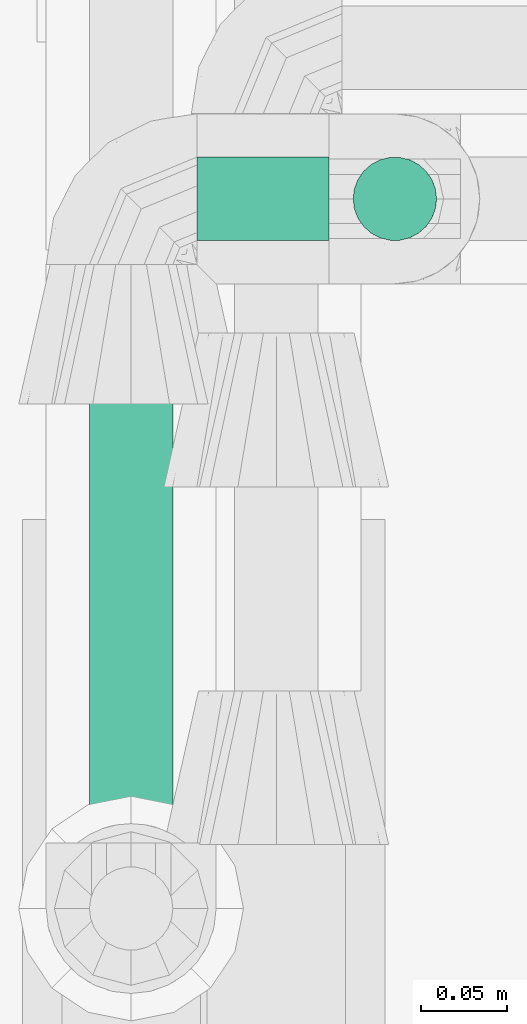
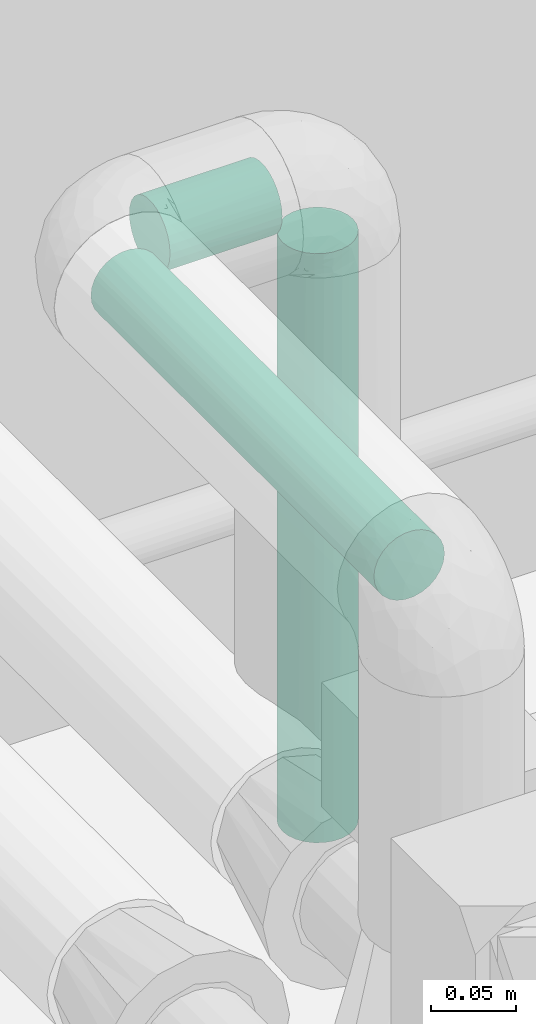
# One storey, part 85 of 94: 3 flow segments.
"""IFC2X3 building model written with IfcOpenShell, lengths in millimetres."""

from ifc_helpers import new_model, entity, si_unit, converted_unit, derived_unit, direction, frame, frame_2d, origin, origin_2d_with_axis, place, context, subcontext, project, spatial, circle, extrude, type_object, element, save


model = new_model("IFC2X3")

# Units and contexts
model_context = context("Model", 3, precision=0.01, world=origin(), true_north=direction((6.123031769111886e-17, 1.0)))
body_context = subcontext(model_context, "Body", "Model", "MODEL_VIEW")
ifc_project = project(units=[si_unit("LENGTHUNIT", "METRE", prefix="MILLI"), si_unit("AREAUNIT", "SQUARE_METRE"), si_unit("VOLUMEUNIT", "CUBIC_METRE"), converted_unit("PLANEANGLEUNIT", "DEGREE", entity("IfcRatioMeasure", 0.017453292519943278), si_unit("PLANEANGLEUNIT", "RADIAN"), dimensions=[0, 0, 0, 0, 0, 0, 0]), si_unit("MASSUNIT", "GRAM", prefix="KILO"), derived_unit("MASSDENSITYUNIT", [(si_unit("MASSUNIT", "GRAM", prefix="KILO"), 1), (si_unit("LENGTHUNIT", "METRE"), -3)]), derived_unit("IONCONCENTRATIONUNIT", [(si_unit("MASSUNIT", "GRAM", prefix="KILO"), 1), (si_unit("LENGTHUNIT", "METRE"), -3)]), derived_unit("MOMENTOFINERTIAUNIT", [(si_unit("LENGTHUNIT", "METRE"), 4)]), si_unit("TIMEUNIT", "SECOND"), si_unit("FREQUENCYUNIT", "HERTZ"), si_unit("THERMODYNAMICTEMPERATUREUNIT", "DEGREE_CELSIUS"), derived_unit("THERMALTRANSMITTANCEUNIT", [(si_unit("MASSUNIT", "GRAM", prefix="KILO"), 1), (si_unit("THERMODYNAMICTEMPERATUREUNIT", "KELVIN"), -1), (si_unit("TIMEUNIT", "SECOND"), -3)]), derived_unit("THERMALCONDUCTANCEUNIT", [(si_unit("MASSUNIT", "GRAM", prefix="KILO"), 1), (si_unit("THERMODYNAMICTEMPERATUREUNIT", "KELVIN"), -1), (si_unit("TIMEUNIT", "SECOND"), -3), (si_unit("LENGTHUNIT", "METRE"), 1)]), derived_unit("VOLUMETRICFLOWRATEUNIT", [(si_unit("LENGTHUNIT", "METRE"), 3), (si_unit("TIMEUNIT", "SECOND"), -1)]), derived_unit("MASSFLOWRATEUNIT", [(si_unit("MASSUNIT", "GRAM", prefix="KILO"), 1), (si_unit("TIMEUNIT", "SECOND"), -1)]), derived_unit("ROTATIONALFREQUENCYUNIT", [(si_unit("TIMEUNIT", "SECOND"), -1)]), si_unit("ELECTRICCURRENTUNIT", "AMPERE"), si_unit("ELECTRICVOLTAGEUNIT", "VOLT"), si_unit("POWERUNIT", "WATT"), si_unit("FORCEUNIT", "NEWTON", prefix="KILO"), si_unit("ILLUMINANCEUNIT", "LUX"), si_unit("LUMINOUSFLUXUNIT", "LUMEN"), si_unit("LUMINOUSINTENSITYUNIT", "CANDELA"), derived_unit("USERDEFINED", [(si_unit("MASSUNIT", "GRAM", prefix="KILO"), -1), (si_unit("LENGTHUNIT", "METRE"), -2), (si_unit("TIMEUNIT", "SECOND"), 3), (si_unit("LUMINOUSFLUXUNIT", "LUMEN"), 1)]), derived_unit("USERDEFINED", [(si_unit("MASSUNIT", "GRAM", prefix="KILO"), 1), (si_unit("TIMEUNIT", "SECOND"), -3), (si_unit("LENGTHUNIT", "METRE"), 3), (si_unit("ELECTRICCURRENTUNIT", "AMPERE"), -2)]), derived_unit("SOUNDPOWERUNIT", [(si_unit("MASSUNIT", "GRAM", prefix="KILO"), 1), (si_unit("TIMEUNIT", "SECOND"), -3), (si_unit("LENGTHUNIT", "METRE"), 2)]), derived_unit("SOUNDPRESSUREUNIT", [(si_unit("MASSUNIT", "GRAM", prefix="KILO"), 1), (si_unit("LENGTHUNIT", "METRE"), -1), (si_unit("TIMEUNIT", "SECOND"), -2)]), derived_unit("LINEARVELOCITYUNIT", [(si_unit("LENGTHUNIT", "METRE"), 1), (si_unit("TIMEUNIT", "SECOND"), -1)]), si_unit("PRESSUREUNIT", "PASCAL"), derived_unit("USERDEFINED", [(si_unit("MASSUNIT", "GRAM", prefix="KILO"), 1), (si_unit("LENGTHUNIT", "METRE"), -2), (si_unit("TIMEUNIT", "SECOND"), -2)]), derived_unit("LINEARFORCEUNIT", [(si_unit("MASSUNIT", "GRAM", prefix="KILO"), 1), (si_unit("TIMEUNIT", "SECOND"), -2)]), derived_unit("PLANARFORCEUNIT", [(si_unit("MASSUNIT", "GRAM", prefix="KILO"), 1), (si_unit("LENGTHUNIT", "METRE"), -1), (si_unit("TIMEUNIT", "SECOND"), -2)]), derived_unit("SPECIFICHEATCAPACITYUNIT", [(si_unit("THERMODYNAMICTEMPERATUREUNIT", "KELVIN"), -1), (si_unit("LENGTHUNIT", "METRE"), 2), (si_unit("TIMEUNIT", "SECOND"), -2)]), derived_unit("HEATINGVALUEUNIT", [(si_unit("LENGTHUNIT", "METRE"), 2), (si_unit("TIMEUNIT", "SECOND"), -2)]), derived_unit("VAPORPERMEABILITYUNIT", [(si_unit("LENGTHUNIT", "METRE"), -1), (si_unit("TIMEUNIT", "SECOND"), 1)]), derived_unit("DYNAMICVISCOSITYUNIT", [(si_unit("MASSUNIT", "GRAM", prefix="KILO"), 1), (si_unit("TIMEUNIT", "SECOND"), -1), (si_unit("LENGTHUNIT", "METRE"), -1)]), derived_unit("THERMALEXPANSIONCOEFFICIENTUNIT", [(si_unit("THERMODYNAMICTEMPERATUREUNIT", "KELVIN"), -1)]), derived_unit("MODULUSOFELASTICITYUNIT", [(si_unit("MASSUNIT", "GRAM", prefix="KILO"), 1), (si_unit("LENGTHUNIT", "METRE"), -1), (si_unit("TIMEUNIT", "SECOND"), -2)]), derived_unit("ISOTHERMALMOISTURECAPACITYUNIT", [(si_unit("LENGTHUNIT", "METRE"), 3), (si_unit("MASSUNIT", "GRAM", prefix="KILO"), -1)]), derived_unit("MOISTUREDIFFUSIVITYUNIT", [(si_unit("TIMEUNIT", "SECOND"), -1), (si_unit("LENGTHUNIT", "METRE"), 2)])], contexts=[model_context])

# Site, building, storey
site_placement = place(None, origin())
site = spatial("IfcSite", under=ifc_project, at=site_placement, Name="Default", CompositionType="ELEMENT")
building_placement = place(site_placement, origin())
building = spatial("IfcBuilding", under=site, at=building_placement, CompositionType="ELEMENT")
storey_placement = place(building_placement, origin())
storey = spatial("IfcBuildingStorey", under=building, at=storey_placement, Name="Niveau 0", CompositionType="ELEMENT", Elevation=0.0)

# Flow segments
pipe_segment_type_1 = type_object("IfcPipeSegmentType", Name="Canalisation:Bride acier", PredefinedType="NOTDEFINED")
flow_segment_1_placement = place(storey_placement, origin())
element("IfcFlowSegment", 1, at=flow_segment_1_placement, inside=storey, type_object=pipe_segment_type_1, Name="Canalisation:Bride acier", ObjectType="Canalisation:Bride acier", context=body_context, shape_type="SweptSolid", body=[
    extrude(circle(Radius=24.13, at=origin_2d_with_axis()), frame((-6972.740682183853, 9275.47767928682, 999.9987225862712), z_axis=(0.9999999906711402, 0.0, 0.00013659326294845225), x_axis=(0.0, 1.0, 0.0)), (0.0, 0.0, 1.0), 76.58976976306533),
])
flow_segment_2_placement = place(storey_placement, origin())
element("IfcFlowSegment", 2, at=flow_segment_2_placement, inside=storey, type_object=pipe_segment_type_1, Name="Canalisation:Bride acier", ObjectType="Canalisation:Bride acier", context=body_context, shape_type="SweptSolid", body=[
    extrude(circle(Radius=24.13, at=frame_2d((2.175420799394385e-18, 0.0), x_axis=(1.0, 0.0))), frame((-6858.137252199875, 9275.477679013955, 537.0), z_axis=(-3.2143124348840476e-05, 0.0, 1.0), x_axis=(-1.0, 0.0, -3.2143124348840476e-05)), (0.0, 0.0, 1.0), 425.01437499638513),
])
pipe_segment_type_2 = type_object("IfcPipeSegmentType", Name="Canalisation:Standard", PredefinedType="NOTDEFINED")
flow_segment_3_placement = place(storey_placement, origin())
element("IfcFlowSegment", 3, at=flow_segment_3_placement, inside=storey, type_object=pipe_segment_type_2, Name="Canalisation:Standard", ObjectType="Canalisation:Standard", context=body_context, shape_type="SweptSolid", body=[
    extrude(circle(Radius=24.13, at=frame_2d((9.529230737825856e-10, 1.9890532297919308e-28), x_axis=(1.0, 0.0))), frame((-7010.740682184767, 8902.870419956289, 1000.0), z_axis=(0.0, 1.0, 0.0), x_axis=(-1.0, 0.0, 0.0)), (0.0, 0.0, 1.0), 334.60725935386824),
])

save(model, "model.ifc")
